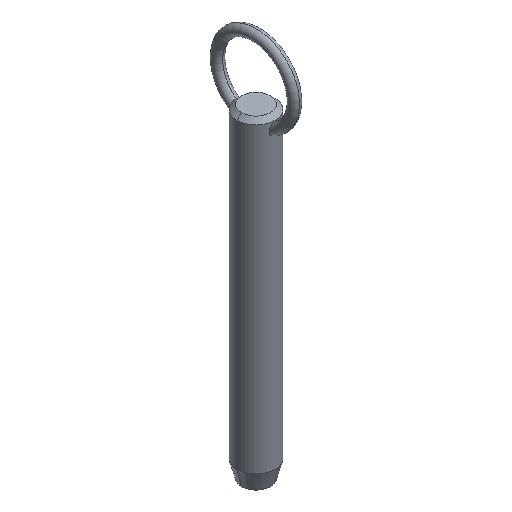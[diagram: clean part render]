
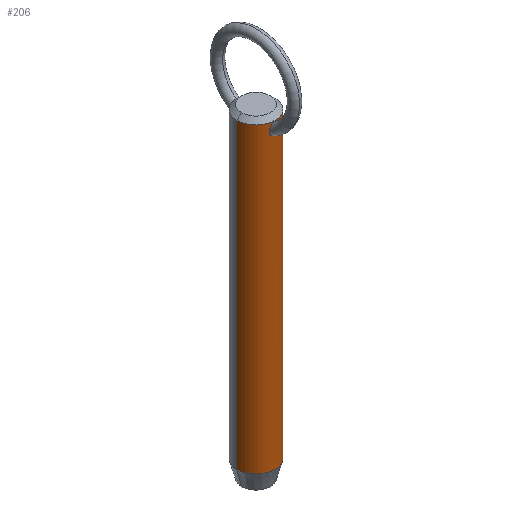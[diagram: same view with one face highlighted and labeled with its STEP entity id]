
A CAD part, isometric view. The second image highlights one B-rep face of the part: STEP entity #206.
In plain terms, the highlighted cylindrical face has radius 5.55 mm (diameter 11.1 mm), a partial arc.
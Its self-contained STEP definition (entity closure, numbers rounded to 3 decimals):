
#8 = VERTEX_POINT ( 'NONE', #225 ) ;
#14 = CARTESIAN_POINT ( 'NONE',  ( -1.477, -5.35, 76.242 ) ) ;
#15 = CARTESIAN_POINT ( 'NONE',  ( -1.44, -5.36, 77.087 ) ) ;
#17 = CARTESIAN_POINT ( 'NONE',  ( 5.55, 0., 73.7 ) ) ;
#19 = VECTOR ( 'NONE', #250, 1000. ) ;
#26 = DIRECTION ( 'NONE',  ( 1., 0., 0. ) ) ;
#27 = DIRECTION ( 'NONE',  ( 0., 0., -1. ) ) ;
#33 = DIRECTION ( 'NONE',  ( -1., 0., 0. ) ) ;
#34 = LINE ( 'NONE', #17, #19 ) ;
#37 = CARTESIAN_POINT ( 'NONE',  ( 0.523, -5.526, 75.066 ) ) ;
#38 = CARTESIAN_POINT ( 'NONE',  ( 0.807, -5.492, 75.206 ) ) ;
#45 = EDGE_CURVE ( 'NONE', #256, #8, #231, .T. ) ;
#51 = CARTESIAN_POINT ( 'NONE',  ( -0.939, -5.472, 78.01 ) ) ;
#52 = ORIENTED_EDGE ( 'NONE', *, *, #162, .T. ) ;
#56 = CARTESIAN_POINT ( 'NONE',  ( -0.976, -5.464, 75.331 ) ) ;
#71 = B_SPLINE_CURVE_WITH_KNOTS ( 'NONE', 3,
 ( #374, #244, #163, #92, #131, #377, #207, #56, #422, #421, #129, #506, #14, #420, #458, #128, #15, #167, #504, #51, #132, #91, #247, #425, #168, #291 ),
 .UNSPECIFIED., .F., .F.,
 ( 4, 2, 2, 2, 2, 2, 2, 2, 2, 2, 2, 2, 4 ),
 ( 0.01, 0.01, 0.01, 0.011, 0.011, 0.012, 0.012, 0.012, 0.013, 0.013, 0.014, 0.014, 0.015 ),
 .UNSPECIFIED. ) ;
#72 = CARTESIAN_POINT ( 'NONE',  ( 1.363, -5.38, 75.834 ) ) ;
#79 = CARTESIAN_POINT ( 'NONE',  ( 0.515, -5.527, 78.322 ) ) ;
#90 = VERTEX_POINT ( 'NONE', #263 ) ;
#91 = CARTESIAN_POINT ( 'NONE',  ( -0.513, -5.527, 78.323 ) ) ;
#92 = CARTESIAN_POINT ( 'NONE',  ( -0.42, -5.535, 75.032 ) ) ;
#101 = ORIENTED_EDGE ( 'NONE', *, *, #319, .T. ) ;
#128 = CARTESIAN_POINT ( 'NONE',  ( -1.485, -5.348, 76.879 ) ) ;
#129 = CARTESIAN_POINT ( 'NONE',  ( -1.362, -5.381, 75.832 ) ) ;
#131 = CARTESIAN_POINT ( 'NONE',  ( -0.523, -5.526, 75.066 ) ) ;
#132 = CARTESIAN_POINT ( 'NONE',  ( -0.785, -5.497, 78.158 ) ) ;
#144 = CARTESIAN_POINT ( 'NONE',  ( 0., -5.55, 78.445 ) ) ;
#145 = CARTESIAN_POINT ( 'NONE',  ( 0., 0., -9.2 ) ) ;
#155 = DIRECTION ( 'NONE',  ( 0., 0., -1. ) ) ;
#157 = VERTEX_POINT ( 'NONE', #333 ) ;
#159 = CARTESIAN_POINT ( 'NONE',  ( -5.55, 0., 73.7 ) ) ;
#162 = EDGE_CURVE ( 'NONE', #157, #90, #429, .T. ) ;
#163 = CARTESIAN_POINT ( 'NONE',  ( -0.212, -5.547, 74.988 ) ) ;
#167 = CARTESIAN_POINT ( 'NONE',  ( -1.294, -5.398, 77.486 ) ) ;
#168 = CARTESIAN_POINT ( 'NONE',  ( -0.106, -5.55, 78.445 ) ) ;
#189 = CARTESIAN_POINT ( 'NONE',  ( 0.421, -5.535, 75.032 ) ) ;
#193 = CARTESIAN_POINT ( 'NONE',  ( 1.055, -5.449, 75.405 ) ) ;
#194 = CARTESIAN_POINT ( 'NONE',  ( 1.44, -5.36, 77.086 ) ) ;
#206 = ADVANCED_FACE ( 'NONE', ( #270, #419 ), #245, .T. ) ;
#207 = CARTESIAN_POINT ( 'NONE',  ( -0.807, -5.492, 75.205 ) ) ;
#209 = VECTOR ( 'NONE', #155, 1000. ) ;
#221 = LINE ( 'NONE', #159, #209 ) ;
#224 = CARTESIAN_POINT ( 'NONE',  ( 0., -5.55, 74.977 ) ) ;
#225 = CARTESIAN_POINT ( 'NONE',  ( -5.55, 0., 78.75 ) ) ;
#226 = AXIS2_PLACEMENT_3D ( 'NONE', #515, #27, #262 ) ;
#230 = CARTESIAN_POINT ( 'NONE',  ( 1.295, -5.397, 77.482 ) ) ;
#231 = CIRCLE ( 'NONE', #400, 5.55 ) ;
#236 = EDGE_LOOP ( 'NONE', ( #101, #496 ) ) ;
#237 = CARTESIAN_POINT ( 'NONE',  ( 1.26, -5.407, 75.643 ) ) ;
#244 = CARTESIAN_POINT ( 'NONE',  ( -0.107, -5.55, 74.977 ) ) ;
#245 = CYLINDRICAL_SURFACE ( 'NONE', #226, 5.55 ) ;
#247 = CARTESIAN_POINT ( 'NONE',  ( -0.416, -5.535, 78.367 ) ) ;
#248 = ORIENTED_EDGE ( 'NONE', *, *, #45, .T. ) ;
#250 = DIRECTION ( 'NONE',  ( 0., 0., -1. ) ) ;
#256 = VERTEX_POINT ( 'NONE', #387 ) ;
#262 = DIRECTION ( 'NONE',  ( -1., 0., 0. ) ) ;
#263 = CARTESIAN_POINT ( 'NONE',  ( 5.55, 0., -9.2 ) ) ;
#267 = CARTESIAN_POINT ( 'NONE',  ( 1.5, -5.343, 76.454 ) ) ;
#270 = FACE_OUTER_BOUND ( 'NONE', #513, .T. ) ;
#288 = ORIENTED_EDGE ( 'NONE', *, *, #380, .T. ) ;
#291 = CARTESIAN_POINT ( 'NONE',  ( 0., -5.55, 78.445 ) ) ;
#293 = VERTEX_POINT ( 'NONE', #224 ) ;
#306 = AXIS2_PLACEMENT_3D ( 'NONE', #145, #478, #33 ) ;
#319 = EDGE_CURVE ( 'NONE', #423, #293, #397, .T. ) ;
#333 = CARTESIAN_POINT ( 'NONE',  ( -5.55, 0., -9.2 ) ) ;
#352 = CARTESIAN_POINT ( 'NONE',  ( 0.716, -5.504, 75.152 ) ) ;
#354 = CARTESIAN_POINT ( 'NONE',  ( 1.486, -5.347, 76.874 ) ) ;
#356 = CARTESIAN_POINT ( 'NONE',  ( 1.503, -5.343, 76.559 ) ) ;
#360 = CARTESIAN_POINT ( 'NONE',  ( 0.107, -5.55, 74.977 ) ) ;
#374 = CARTESIAN_POINT ( 'NONE',  ( 0., -5.55, 74.977 ) ) ;
#377 = CARTESIAN_POINT ( 'NONE',  ( -0.716, -5.504, 75.152 ) ) ;
#380 = EDGE_CURVE ( 'NONE', #8, #157, #221, .T. ) ;
#387 = CARTESIAN_POINT ( 'NONE',  ( 5.55, 0., 78.75 ) ) ;
#397 = B_SPLINE_CURVE_WITH_KNOTS ( 'NONE', 3,
 ( #144, #437, #447, #443, #79, #486, #488, #399, #230, #194, #354, #356, #267, #445, #491, #72, #237, #193, #402, #38, #352, #37, #189, #521, #360, #487 ),
 .UNSPECIFIED., .F., .F.,
 ( 4, 2, 2, 2, 2, 2, 2, 2, 2, 2, 2, 2, 4 ),
 ( 0.005, 0.005, 0.005, 0.006, 0.006, 0.007, 0.007, 0.008, 0.008, 0.009, 0.009, 0.009, 0.01 ),
 .UNSPECIFIED. ) ;
#399 = CARTESIAN_POINT ( 'NONE',  ( 1.194, -5.422, 77.671 ) ) ;
#400 = AXIS2_PLACEMENT_3D ( 'NONE', #473, #436, #26 ) ;
#402 = CARTESIAN_POINT ( 'NONE',  ( 0.977, -5.464, 75.332 ) ) ;
#413 = CARTESIAN_POINT ( 'NONE',  ( 0., -5.55, 78.445 ) ) ;
#419 = FACE_BOUND ( 'NONE', #236, .T. ) ;
#420 = CARTESIAN_POINT ( 'NONE',  ( -1.5, -5.343, 76.453 ) ) ;
#421 = CARTESIAN_POINT ( 'NONE',  ( -1.26, -5.407, 75.642 ) ) ;
#422 = CARTESIAN_POINT ( 'NONE',  ( -1.054, -5.449, 75.404 ) ) ;
#423 = VERTEX_POINT ( 'NONE', #413 ) ;
#425 = CARTESIAN_POINT ( 'NONE',  ( -0.211, -5.547, 78.429 ) ) ;
#429 = CIRCLE ( 'NONE', #306, 5.55 ) ;
#436 = DIRECTION ( 'NONE',  ( 0., 0., -1. ) ) ;
#437 = CARTESIAN_POINT ( 'NONE',  ( 0.106, -5.55, 78.445 ) ) ;
#443 = CARTESIAN_POINT ( 'NONE',  ( 0.417, -5.535, 78.367 ) ) ;
#445 = CARTESIAN_POINT ( 'NONE',  ( 1.477, -5.35, 76.244 ) ) ;
#447 = CARTESIAN_POINT ( 'NONE',  ( 0.214, -5.547, 78.428 ) ) ;
#458 = CARTESIAN_POINT ( 'NONE',  ( -1.503, -5.343, 76.559 ) ) ;
#473 = CARTESIAN_POINT ( 'NONE',  ( 0., 0., 78.75 ) ) ;
#478 = DIRECTION ( 'NONE',  ( 0., 0., 1. ) ) ;
#483 = ORIENTED_EDGE ( 'NONE', *, *, #527, .F. ) ;
#486 = CARTESIAN_POINT ( 'NONE',  ( 0.786, -5.497, 78.157 ) ) ;
#487 = CARTESIAN_POINT ( 'NONE',  ( 0., -5.55, 74.977 ) ) ;
#488 = CARTESIAN_POINT ( 'NONE',  ( 0.941, -5.471, 78.007 ) ) ;
#491 = CARTESIAN_POINT ( 'NONE',  ( 1.455, -5.356, 76.138 ) ) ;
#496 = ORIENTED_EDGE ( 'NONE', *, *, #520, .T. ) ;
#504 = CARTESIAN_POINT ( 'NONE',  ( -1.195, -5.421, 77.671 ) ) ;
#506 = CARTESIAN_POINT ( 'NONE',  ( -1.455, -5.356, 76.136 ) ) ;
#513 = EDGE_LOOP ( 'NONE', ( #483, #248, #288, #52 ) ) ;
#515 = CARTESIAN_POINT ( 'NONE',  ( 0., 0., 73.7 ) ) ;
#520 = EDGE_CURVE ( 'NONE', #293, #423, #71, .T. ) ;
#521 = CARTESIAN_POINT ( 'NONE',  ( 0.213, -5.547, 74.988 ) ) ;
#527 = EDGE_CURVE ( 'NONE', #256, #90, #34, .T. ) ;
